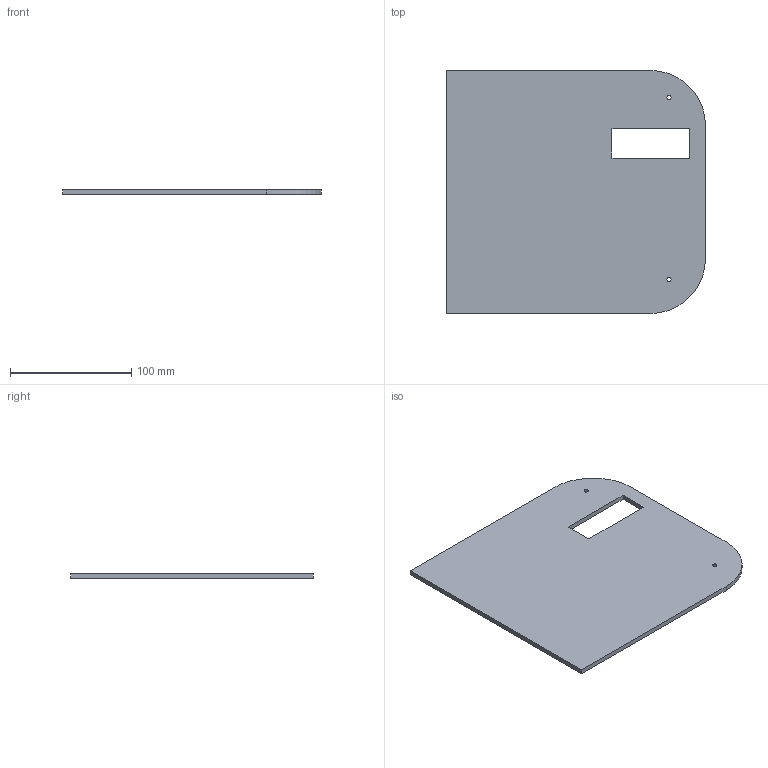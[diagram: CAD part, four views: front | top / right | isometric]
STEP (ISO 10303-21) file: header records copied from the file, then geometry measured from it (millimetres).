
FILE_DESCRIPTION(('Base splice and hand/dowel native rebuild. P1 head/arm retained as imported base geometry.'),'2;1');
FILE_NAME('PILL_BASE_LID_3.step','',(''),(''),'SolidCraft','SolidCraft','');
FILE_SCHEMA(('AP242_MANAGED_MODEL_BASED_3D_ENGINEERING_MIM_LF { 1 0 10303 442 1 1 4 }'));
Length unit declared in the file: millimetre
Products named in the file (1): PILL_BASE_LID_3
Bounding box: 213.33 x 200 x 4 mm (x, y, z)
Volume: 160973.4 mm3; surface area: 84428.3 mm2
Topology: 1 solids, 1 shells, 14 faces, 40 edges, 28 vertices
Faces by surface type: plane 10, cylinder 4
Full cylindrical faces by diameter (mm): 3.4 x2
Entity records: 368 total; most frequent: ORIENTED_EDGE 80, CARTESIAN_POINT 68, EDGE_CURVE 40, VERTEX_POINT 28, LINE 28, EDGE_LOOP 20, FACE_BOUND 20, AXIS2_PLACEMENT_3D 15
